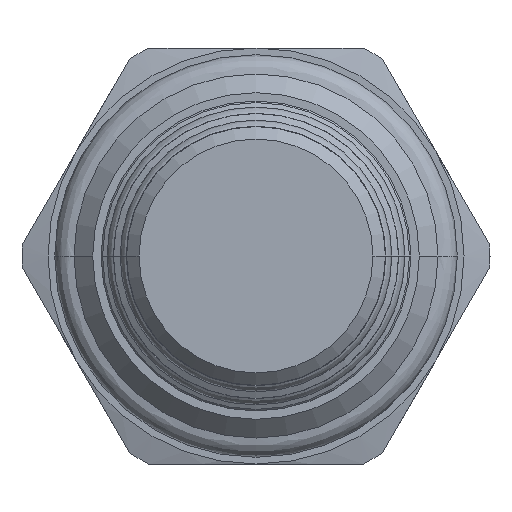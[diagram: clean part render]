
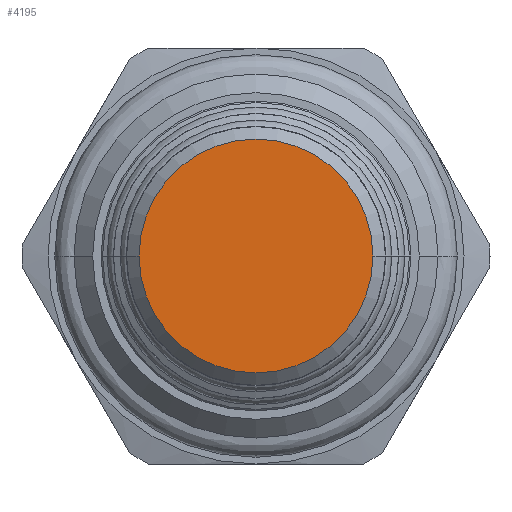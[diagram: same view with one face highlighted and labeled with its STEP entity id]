
A CAD part, front view. The second image highlights one B-rep face of the part: STEP entity #4195.
In plain terms, the highlighted planar face has unit normal (0, -1, 0).
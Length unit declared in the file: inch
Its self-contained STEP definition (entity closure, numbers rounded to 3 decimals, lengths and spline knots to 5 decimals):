
#1762=CARTESIAN_POINT('',(0.,-1.824,0.));
#1763=DIRECTION('',(0.,-1.,0.));
#1764=DIRECTION('',(-1.,0.,0.));
#1765=AXIS2_PLACEMENT_3D('',#1762,#1763,#1764);
#1767=CARTESIAN_POINT('',(0.,-1.824,0.));
#1768=DIRECTION('',(0.,1.,0.));
#1769=DIRECTION('',(-1.,0.,0.));
#1770=AXIS2_PLACEMENT_3D('',#1767,#1768,#1769);
#1817=CARTESIAN_POINT('',(-0.281,-1.824,0.));
#1819=VERTEX_POINT('',#1817);
#1835=CARTESIAN_POINT('',(0.281,-1.824,0.));
#1837=VERTEX_POINT('',#1835);
#4186=CARTESIAN_POINT('',(0.,-1.824,0.));
#4187=DIRECTION('',(0.,1.,0.));
#4188=DIRECTION('',(1.,0.,0.));
#4189=AXIS2_PLACEMENT_3D('',#4186,#4187,#4188);
#4190=PLANE('',#4189);
#4191=ORIENTED_EDGE('',*,*,#4165,.F.);
#4192=ORIENTED_EDGE('',*,*,#4181,.T.);
#4193=EDGE_LOOP('',(#4191,#4192));
#4194=FACE_OUTER_BOUND('',#4193,.F.);
#4195=ADVANCED_FACE('',(#4194),#4190,.F.);
#1766=CIRCLE('',#1765,0.281);
#1771=CIRCLE('',#1770,0.281);
#4165=EDGE_CURVE('',#1819,#1837,#1766,.T.);
#4181=EDGE_CURVE('',#1819,#1837,#1771,.T.);
